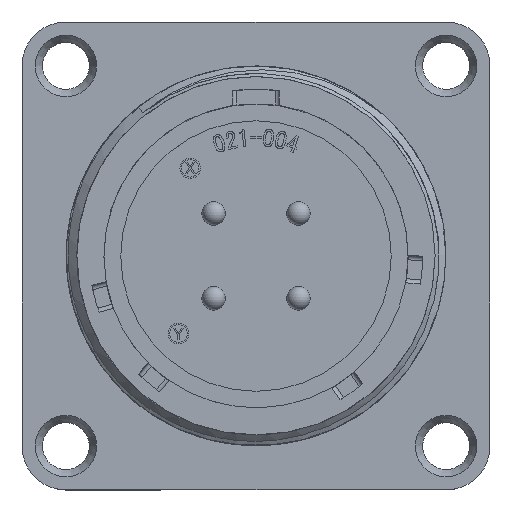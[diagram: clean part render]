
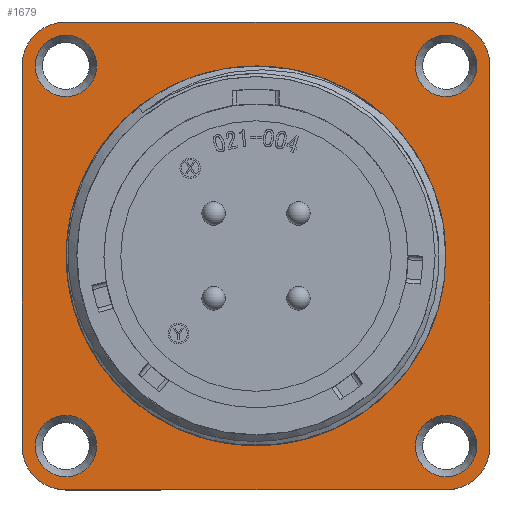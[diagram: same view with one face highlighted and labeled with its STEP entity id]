
A CAD part, top view. The second image highlights one B-rep face of the part: STEP entity #1679.
In plain terms, the highlighted planar face has unit normal (0, 0, 1).
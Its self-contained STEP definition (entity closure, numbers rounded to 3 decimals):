
#60 = DIRECTION ( 'NONE',  ( 0., 0., -1. ) ) ;
#113 = EDGE_LOOP ( 'NONE', ( #10310 ) ) ;
#278 = DIRECTION ( 'NONE',  ( 1., 0., 0. ) ) ;
#543 = ORIENTED_EDGE ( 'NONE', *, *, #14519, .T. ) ;
#1111 = CARTESIAN_POINT ( 'NONE',  ( 16., -13., -10.5 ) ) ;
#1159 = CARTESIAN_POINT ( 'NONE',  ( 16., 13., -10.5 ) ) ;
#1526 = VERTEX_POINT ( 'NONE', #8418 ) ;
#1583 = DIRECTION ( 'NONE',  ( 1., 0., 0. ) ) ;
#1679 = ADVANCED_FACE ( 'NONE', ( #6307, #15793, #12315, #4394, #7457, #13669 ), #6767, .T. ) ;
#1700 = CARTESIAN_POINT ( 'NONE',  ( -13., 13., -10.5 ) ) ;
#1746 = AXIS2_PLACEMENT_3D ( 'NONE', #6403, #6509, #7797 ) ;
#1899 = CARTESIAN_POINT ( 'NONE',  ( -13., -13., -10.5 ) ) ;
#2399 = AXIS2_PLACEMENT_3D ( 'NONE', #14263, #11578, #5438 ) ;
#2407 = ORIENTED_EDGE ( 'NONE', *, *, #7631, .F. ) ;
#2523 = EDGE_LOOP ( 'NONE', ( #10255 ) ) ;
#3095 = EDGE_LOOP ( 'NONE', ( #12580, #3491, #2407, #7960, #13273, #8295, #4187, #15951 ) ) ;
#3238 = EDGE_LOOP ( 'NONE', ( #543 ) ) ;
#3440 = VERTEX_POINT ( 'NONE', #10797 ) ;
#3491 = ORIENTED_EDGE ( 'NONE', *, *, #15182, .F. ) ;
#3573 = VERTEX_POINT ( 'NONE', #7717 ) ;
#3632 = CARTESIAN_POINT ( 'NONE',  ( -16., -13., -10.5 ) ) ;
#3671 = CARTESIAN_POINT ( 'NONE',  ( 12.98, 0., -10.5 ) ) ;
#3675 = CARTESIAN_POINT ( 'NONE',  ( 13., 16., -10.5 ) ) ;
#3749 = AXIS2_PLACEMENT_3D ( 'NONE', #14734, #15973, #8552 ) ;
#3855 = LINE ( 'NONE', #1159, #6161 ) ;
#4158 = EDGE_CURVE ( 'NONE', #15185, #7351, #3855, .T. ) ;
#4187 = ORIENTED_EDGE ( 'NONE', *, *, #7591, .F. ) ;
#4191 = DIRECTION ( 'NONE',  ( 1., 0., 0. ) ) ;
#4210 = CARTESIAN_POINT ( 'NONE',  ( 13., 16., -10.5 ) ) ;
#4248 = EDGE_LOOP ( 'NONE', ( #7721 ) ) ;
#4394 = FACE_BOUND ( 'NONE', #2523, .T. ) ;
#4749 = CARTESIAN_POINT ( 'NONE',  ( 15.1, 13., -10.5 ) ) ;
#5208 = VERTEX_POINT ( 'NONE', #3671 ) ;
#5217 = DIRECTION ( 'NONE',  ( 0., 1., 0. ) ) ;
#5340 = CIRCLE ( 'NONE', #12099, 2.1 ) ;
#5374 = VERTEX_POINT ( 'NONE', #3632 ) ;
#5387 = DIRECTION ( 'NONE',  ( -1., 0., 0. ) ) ;
#5438 = DIRECTION ( 'NONE',  ( 1., 0., 0. ) ) ;
#5599 = DIRECTION ( 'NONE',  ( 0., 0., 1. ) ) ;
#5660 = EDGE_CURVE ( 'NONE', #1526, #1526, #12709, .T. ) ;
#6025 = CIRCLE ( 'NONE', #2399, 2.1 ) ;
#6161 = VECTOR ( 'NONE', #15981, 1000. ) ;
#6307 = FACE_BOUND ( 'NONE', #113, .T. ) ;
#6403 = CARTESIAN_POINT ( 'NONE',  ( -13., 13., -10.5 ) ) ;
#6443 = AXIS2_PLACEMENT_3D ( 'NONE', #7666, #60, #278 ) ;
#6509 = DIRECTION ( 'NONE',  ( 0., 0., -1. ) ) ;
#6576 = EDGE_CURVE ( 'NONE', #12171, #12171, #5340, .T. ) ;
#6606 = CARTESIAN_POINT ( 'NONE',  ( 13., 13., -10.5 ) ) ;
#6702 = DIRECTION ( 'NONE',  ( 0., 0., -1. ) ) ;
#6767 = PLANE ( 'NONE',  #9846 ) ;
#6980 = DIRECTION ( 'NONE',  ( 0., 0., 1. ) ) ;
#7022 = CARTESIAN_POINT ( 'NONE',  ( 13., -13., -10.5 ) ) ;
#7071 = CARTESIAN_POINT ( 'NONE',  ( 0., 0., -10.5 ) ) ;
#7312 = VERTEX_POINT ( 'NONE', #15616 ) ;
#7351 = VERTEX_POINT ( 'NONE', #1111 ) ;
#7363 = LINE ( 'NONE', #11358, #12226 ) ;
#7457 = FACE_BOUND ( 'NONE', #3238, .T. ) ;
#7591 = EDGE_CURVE ( 'NONE', #3440, #3573, #15197, .T. ) ;
#7631 = EDGE_CURVE ( 'NONE', #7351, #8089, #10884, .T. ) ;
#7664 = CARTESIAN_POINT ( 'NONE',  ( 13., -16., -10.5 ) ) ;
#7666 = CARTESIAN_POINT ( 'NONE',  ( -13., -13., -10.5 ) ) ;
#7667 = DIRECTION ( 'NONE',  ( 0., 0., 1. ) ) ;
#7717 = CARTESIAN_POINT ( 'NONE',  ( -13., 16., -10.5 ) ) ;
#7721 = ORIENTED_EDGE ( 'NONE', *, *, #6576, .F. ) ;
#7797 = DIRECTION ( 'NONE',  ( 1., 0., 0. ) ) ;
#7960 = ORIENTED_EDGE ( 'NONE', *, *, #4158, .F. ) ;
#8089 = VERTEX_POINT ( 'NONE', #7664 ) ;
#8295 = ORIENTED_EDGE ( 'NONE', *, *, #12021, .F. ) ;
#8345 = DIRECTION ( 'NONE',  ( 1., 0., 0. ) ) ;
#8418 = CARTESIAN_POINT ( 'NONE',  ( 15.1, -13., -10.5 ) ) ;
#8552 = DIRECTION ( 'NONE',  ( -1., 0., 0. ) ) ;
#8769 = ORIENTED_EDGE ( 'NONE', *, *, #5660, .F. ) ;
#8808 = AXIS2_PLACEMENT_3D ( 'NONE', #1700, #5599, #4191 ) ;
#9158 = AXIS2_PLACEMENT_3D ( 'NONE', #7022, #6980, #14507 ) ;
#9322 = CIRCLE ( 'NONE', #3749, 3. ) ;
#9480 = EDGE_LOOP ( 'NONE', ( #8769 ) ) ;
#9670 = VERTEX_POINT ( 'NONE', #3675 ) ;
#9846 = AXIS2_PLACEMENT_3D ( 'NONE', #1899, #10518, #12887 ) ;
#9907 = CARTESIAN_POINT ( 'NONE',  ( -10.9, 13., -10.5 ) ) ;
#10255 = ORIENTED_EDGE ( 'NONE', *, *, #14116, .F. ) ;
#10310 = ORIENTED_EDGE ( 'NONE', *, *, #14128, .F. ) ;
#10312 = AXIS2_PLACEMENT_3D ( 'NONE', #12798, #11587, #5387 ) ;
#10518 = DIRECTION ( 'NONE',  ( 0., 0., 1. ) ) ;
#10797 = CARTESIAN_POINT ( 'NONE',  ( -16., 13., -10.5 ) ) ;
#10870 = AXIS2_PLACEMENT_3D ( 'NONE', #7071, #6702, #14547 ) ;
#10884 = CIRCLE ( 'NONE', #10312, 3. ) ;
#11165 = CARTESIAN_POINT ( 'NONE',  ( -10.9, -13., -10.5 ) ) ;
#11358 = CARTESIAN_POINT ( 'NONE',  ( -16., 13., -10.5 ) ) ;
#11578 = DIRECTION ( 'NONE',  ( 0., 0., 1. ) ) ;
#11587 = DIRECTION ( 'NONE',  ( 0., 0., -1. ) ) ;
#11597 = LINE ( 'NONE', #13655, #14148 ) ;
#12021 = EDGE_CURVE ( 'NONE', #3573, #9670, #14219, .T. ) ;
#12099 = AXIS2_PLACEMENT_3D ( 'NONE', #6606, #7667, #1583 ) ;
#12171 = VERTEX_POINT ( 'NONE', #4749 ) ;
#12226 = VECTOR ( 'NONE', #5217, 1000. ) ;
#12315 = FACE_BOUND ( 'NONE', #4248, .T. ) ;
#12575 = CARTESIAN_POINT ( 'NONE',  ( 16., 13., -10.5 ) ) ;
#12580 = ORIENTED_EDGE ( 'NONE', *, *, #15731, .F. ) ;
#12617 = CIRCLE ( 'NONE', #8808, 2.1 ) ;
#12709 = CIRCLE ( 'NONE', #9158, 2.1 ) ;
#12798 = CARTESIAN_POINT ( 'NONE',  ( 13., -13., -10.5 ) ) ;
#12887 = DIRECTION ( 'NONE',  ( 1., 0., 0. ) ) ;
#13273 = ORIENTED_EDGE ( 'NONE', *, *, #13895, .F. ) ;
#13655 = CARTESIAN_POINT ( 'NONE',  ( 13., -16., -10.5 ) ) ;
#13669 = FACE_OUTER_BOUND ( 'NONE', #3095, .T. ) ;
#13715 = DIRECTION ( 'NONE',  ( -1., 0., 0. ) ) ;
#13895 = EDGE_CURVE ( 'NONE', #9670, #15185, #9322, .T. ) ;
#14011 = EDGE_CURVE ( 'NONE', #5374, #3440, #7363, .T. ) ;
#14116 = EDGE_CURVE ( 'NONE', #15469, #15469, #12617, .T. ) ;
#14128 = EDGE_CURVE ( 'NONE', #14134, #14134, #6025, .T. ) ;
#14134 = VERTEX_POINT ( 'NONE', #11165 ) ;
#14148 = VECTOR ( 'NONE', #13715, 1000. ) ;
#14219 = LINE ( 'NONE', #4210, #14775 ) ;
#14263 = CARTESIAN_POINT ( 'NONE',  ( -13., -13., -10.5 ) ) ;
#14366 = CIRCLE ( 'NONE', #10870, 12.98 ) ;
#14507 = DIRECTION ( 'NONE',  ( 1., 0., 0. ) ) ;
#14519 = EDGE_CURVE ( 'NONE', #5208, #5208, #14366, .T. ) ;
#14547 = DIRECTION ( 'NONE',  ( 1., 0., 0. ) ) ;
#14734 = CARTESIAN_POINT ( 'NONE',  ( 13., 13., -10.5 ) ) ;
#14775 = VECTOR ( 'NONE', #8345, 1000. ) ;
#15182 = EDGE_CURVE ( 'NONE', #8089, #7312, #11597, .T. ) ;
#15185 = VERTEX_POINT ( 'NONE', #12575 ) ;
#15197 = CIRCLE ( 'NONE', #1746, 3. ) ;
#15469 = VERTEX_POINT ( 'NONE', #9907 ) ;
#15616 = CARTESIAN_POINT ( 'NONE',  ( -13., -16., -10.5 ) ) ;
#15666 = CIRCLE ( 'NONE', #6443, 3. ) ;
#15731 = EDGE_CURVE ( 'NONE', #7312, #5374, #15666, .T. ) ;
#15793 = FACE_BOUND ( 'NONE', #9480, .T. ) ;
#15951 = ORIENTED_EDGE ( 'NONE', *, *, #14011, .F. ) ;
#15973 = DIRECTION ( 'NONE',  ( 0., 0., -1. ) ) ;
#15981 = DIRECTION ( 'NONE',  ( 0., -1., 0. ) ) ;
